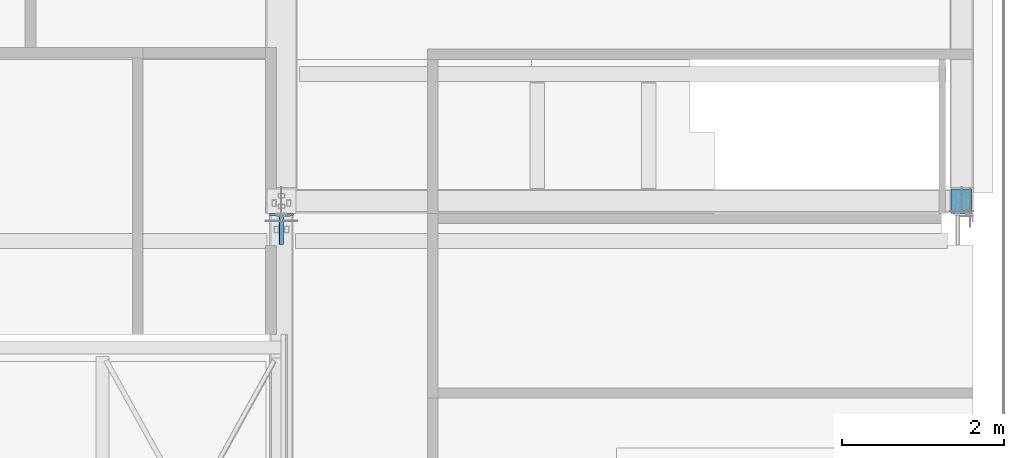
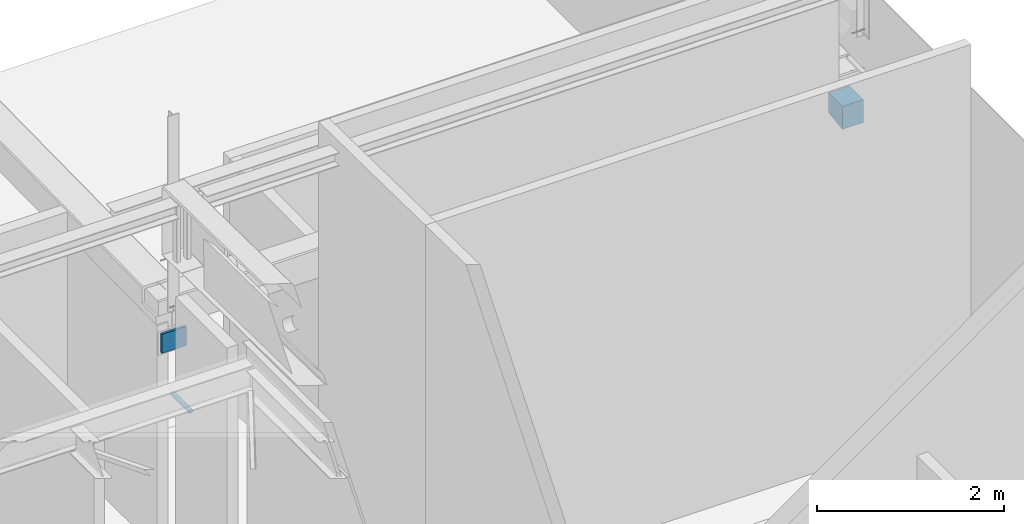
# One storey, part 46 of 186: 3 beams.
"""IFC4X3_ADD2 building model written with IfcOpenShell, lengths in millimetres."""

from ifc_helpers import new_model, entity, si_unit, direction, frame, frame_2d, origin_with_axes, place, context, subcontext, project, spatial, rectangle, hollow_circle, extrude, material, element, save


model = new_model("IFC4X3_ADD2")

# Units and contexts
model_context = context("Model", 3, precision=1e-05, world=origin_with_axes(), true_north=direction((0.0, 1.0)))
body_context = subcontext(model_context, "Body", "Model", "MODEL_VIEW")
ifc_project = project(units=[si_unit("LENGTHUNIT", "METRE", prefix="MILLI"), si_unit("AREAUNIT", "SQUARE_METRE"), si_unit("VOLUMEUNIT", "CUBIC_METRE"), si_unit("PLANEANGLEUNIT", "RADIAN"), si_unit("TIMEUNIT", "SECOND"), si_unit("MASSUNIT", "GRAM")], contexts=[model_context])

# Site, building, storey
site_placement = place(None, origin_with_axes())
site = spatial("IfcSite", under=ifc_project, at=site_placement, Name="Site", CompositionType="ELEMENT")
building_placement = place(site_placement, origin_with_axes())
building = spatial("IfcBuilding", under=site, at=building_placement, Name="IFC Building Story")
storey_placement = place(building_placement, frame((0.0, 0.0, 4370.0), z_axis=(0.0, 0.0, 1.0), x_axis=(1.0, 0.0, 0.0)))
storey = spatial("IfcBuildingStorey", under=building, at=storey_placement, Name="ETAGE 10 (1)", Elevation=4370.0)

# Beams
ifc_material_1 = material(Name="STEEL/Accessory_C50/60 64192")
beam_1_placement = place(storey_placement, frame((48491.1886362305, 18149.9996109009, 2670.333000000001), z_axis=(-1.0, 0.0, 0.0), x_axis=(0.0, 0.0, 1.0)))
element("IfcBeam", 1, at=beam_1_placement, inside=storey, material=ifc_material_1, Name="BEK1", ObjectType="CORBEL300-300-260", context=body_context, shape_type="SweptSolid", body=[
    extrude(entity("IfcTrapeziumProfileDef", "AREA", None, entity("IfcAxis2Placement2D", entity("IfcCartesianPoint", [0.0, 5.95523630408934e-12]), entity("IfcDirection", [1.0, 0.0])), 300.0, 260.0, 300.0, 40.0), origin_with_axes(), (0.0, 0.0, 1.0), 260.0),
])
ifc_material_2 = material(Name="STEEL/Accessory_PVC")
beam_2_placement = place(storey_placement, frame((39966.189, 17612.9999999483, 1970.914), z_axis=(0.0, 1.0, 0.0), x_axis=(1.0, 0.0, 0.0)))
element("IfcBeam", 2, at=beam_2_placement, inside=storey, material=ifc_material_2, Name="PS13", ObjectType="O56*3", context=body_context, shape_type="SweptSolid", body=[
    extrude(hollow_circle(Radius=28.0, WallThickness=3.0, at=frame_2d((0.0, 5.95523630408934e-12), x_axis=(1.0, 0.0))), origin_with_axes(), (0.0, 0.0, 1.0), 383.9999999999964),
])
ifc_material_3 = material(Name="STEEL/Accessory_EPS")
beam_3_placement = place(storey_placement, frame((40116.189, 17985.0, 2685.33300000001), z_axis=(-1.0, 0.0, 0.0), x_axis=(0.0, 0.0, -1.0)))
element("IfcBeam", 3, at=beam_3_placement, inside=storey, material=ifc_material_3, Name="POL4", ObjectType="30*300", context=body_context, shape_type="SweptSolid", body=[
    extrude(rectangle(XDim=250.0, YDim=30.0000000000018, at=frame_2d((0.0, 5.95523630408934e-12), x_axis=(1.0, 0.0))), origin_with_axes(), (0.0, 0.0, 1.0), 300.0),
])

save(model, "model.ifc")
